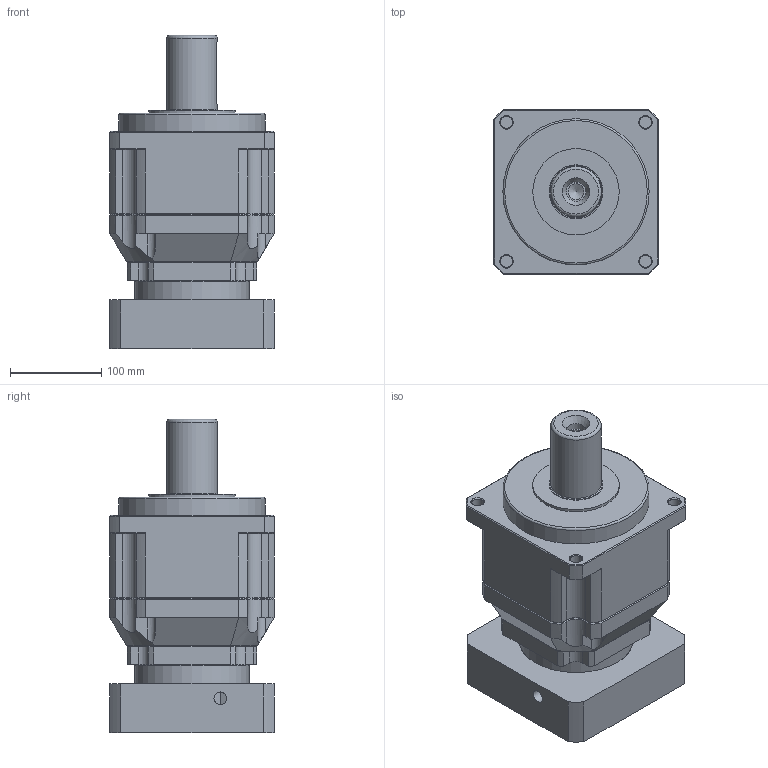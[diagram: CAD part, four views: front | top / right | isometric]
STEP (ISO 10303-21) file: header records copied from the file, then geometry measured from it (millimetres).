
FILE_DESCRIPTION(/* description */ (''),/* implementation_level */ '2;1');
FILE_NAME(/* name */ 'TB180-L2-35-114.3-200-M12-83.5-15.stp',/* time_stamp */ '2020-11-24T16:32:25+08:00',/* author */ (''),/* organization */ (''),/* preprocessor_version */ 'ST-DEVELOPER v16',/* originating_system */ 'SIEMENS PLM Software NX 10.0',/* authorisation */ '');
FILE_SCHEMA (('CONFIG_CONTROL_DESIGN'));
Length unit declared in the file: millimetre
Products named in the file (1): _model293
Bounding box: 180 x 180 x 342.8 mm (x, y, z)
Volume: 6120417.7 mm3; surface area: 411989.5 mm2
Topology: 4 solids, 4 shells, 449 faces, 1097 edges, 683 vertices
Faces by surface type: plane 175, cylinder 133, cone 124, torus 9, bspline 8
Full cylindrical faces by diameter (mm): 6.8 x11, 8.5 x5, 9 x6, 10 x8, 11 x4, 13 x4, 14 x2, 16.7 x1, 17.5 x1, 21 x1, 35 x1, 35.5 x1, 49.5 x1, 52 x2, 55 x4, 60 x1, 65 x1, 70 x1, 94.5 x1, 95 x1, 100 x1, 105 x1, 111 x1, 125 x2, 130 x1, 160 x1
Entity records: 13104 total; most frequent: CARTESIAN_POINT 3291, DIRECTION 2026, ORIENTED_EDGE 1822, EDGE_CURVE 911, AXIS2_PLACEMENT_3D 832, VERTEX_POINT 641, EDGE_LOOP 639, ADVANCED_FACE 449
